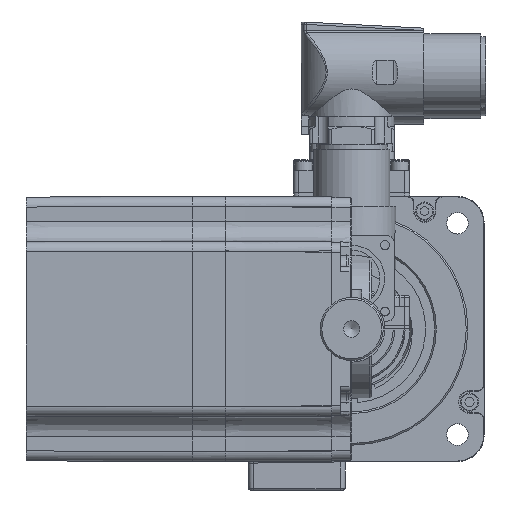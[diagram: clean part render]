
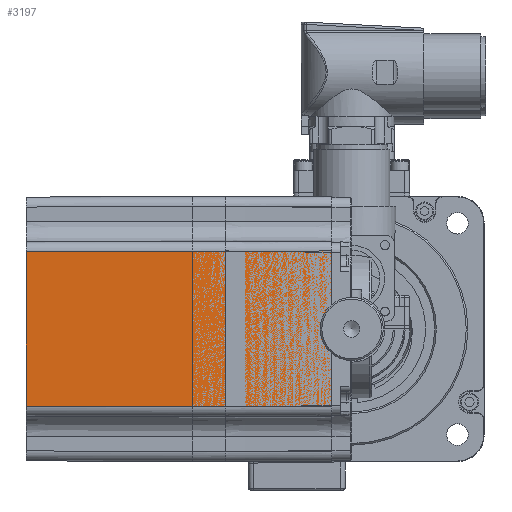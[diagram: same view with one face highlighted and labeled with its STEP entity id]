
A CAD part, front view. The second image highlights one B-rep face of the part: STEP entity #3197.
In plain terms, the highlighted planar face has unit normal (-0.003, -1, 0).
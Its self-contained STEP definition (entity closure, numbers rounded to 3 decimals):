
#3197 = ADVANCED_FACE( '', ( #7535 ), #7536, .T. );
#7535 = FACE_OUTER_BOUND( '', #13999, .T. );
#7536 = PLANE( '', #14000 );
#13999 = EDGE_LOOP( '', ( #24680, #24681, #24682, #24683 ) );
#14000 = AXIS2_PLACEMENT_3D( '', #24684, #24685, #24686 );
#24680 = ORIENTED_EDGE( '', *, *, #35966, .T. );
#24681 = ORIENTED_EDGE( '', *, *, #35967, .T. );
#24682 = ORIENTED_EDGE( '', *, *, #34174, .T. );
#24683 = ORIENTED_EDGE( '', *, *, #35968, .T. );
#24684 = CARTESIAN_POINT( '', ( -5., -40., 0. ) );
#24685 = DIRECTION( '', ( -0.003, -1., 0. ) );
#24686 = DIRECTION( '', ( 1., -0.003, 0. ) );
#34174 = EDGE_CURVE( '', #41477, #41478, #41479, .T. );
#35966 = EDGE_CURVE( '', #44257, #44258, #44259, .T. );
#35967 = EDGE_CURVE( '', #44258, #41477, #44260, .T. );
#35968 = EDGE_CURVE( '', #41478, #44257, #44261, .T. );
#41477 = VERTEX_POINT( '', #52264 );
#41478 = VERTEX_POINT( '', #52265 );
#41479 = LINE( '', #52266, #52267 );
#44257 = VERTEX_POINT( '', #57177 );
#44258 = VERTEX_POINT( '', #57178 );
#44259 = LINE( '', #57179, #57180 );
#44260 = LINE( '', #57181, #57182 );
#44261 = LINE( '', #57183, #57184 );
#52264 = CARTESIAN_POINT( '', ( -6., -39.997, 23.497 ) );
#52265 = CARTESIAN_POINT( '', ( -98., -39.729, 23.229 ) );
#52266 = CARTESIAN_POINT( '', ( -98.991, -39.727, 23.227 ) );
#52267 = VECTOR( '', #63711, 1000. );
#57177 = CARTESIAN_POINT( '', ( -98., -39.729, -23.229 ) );
#57178 = CARTESIAN_POINT( '', ( -6., -39.997, -23.497 ) );
#57179 = CARTESIAN_POINT( '', ( -4.991, -40., -23.5 ) );
#57180 = VECTOR( '', #65946, 1000. );
#57181 = CARTESIAN_POINT( '', ( -6., -39.997, 0. ) );
#57182 = VECTOR( '', #65947, 1000. );
#57183 = CARTESIAN_POINT( '', ( -98., -39.729, 0. ) );
#57184 = VECTOR( '', #65948, 1000. );
#63711 = DIRECTION( '', ( -1., 0.003, -0.003 ) );
#65946 = DIRECTION( '', ( 1., -0.003, -0.003 ) );
#65947 = DIRECTION( '', ( 0., 0., 1. ) );
#65948 = DIRECTION( '', ( 0., 0., -1. ) );
